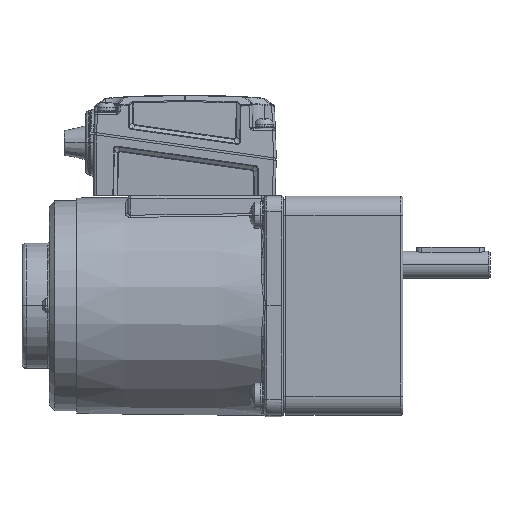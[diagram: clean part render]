
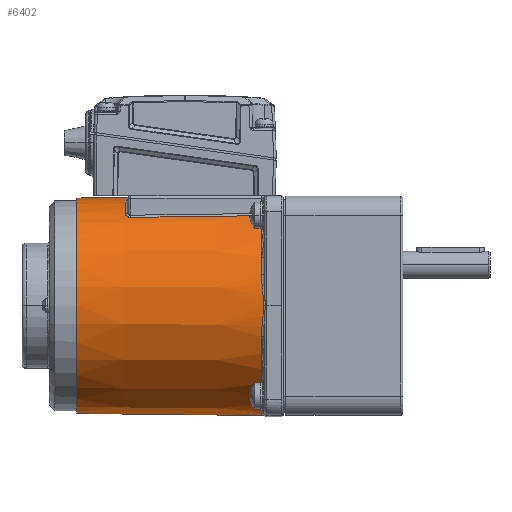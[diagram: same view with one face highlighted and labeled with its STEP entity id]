
A CAD part, top view. The second image highlights one B-rep face of the part: STEP entity #6402.
In plain terms, the highlighted conical face has half-angle 0.6 degrees and reference radius 38.566 mm.
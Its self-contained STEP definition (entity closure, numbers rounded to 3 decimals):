
#6243=CARTESIAN_POINT('',(0.,39.6,-75.8));
#6244=VERTEX_POINT('',#6243);
#6245=CARTESIAN_POINT('',(0.,-39.6,-75.8));
#6246=VERTEX_POINT('',#6245);
#6254=CARTESIAN_POINT('',(0.,0.,-75.8));
#6255=DIRECTION('',(0.,-1.,0.));
#6256=DIRECTION('',(0.,0.,-1.));
#6257=AXIS2_PLACEMENT_3D('',#6254,#6256,#6255);
#6258=CIRCLE('',#6257,39.6);
#6259=EDGE_CURVE('',#6246,#6244,#6258,.T.);
#6268=CARTESIAN_POINT('',(0.,0.,-174.569));
#6269=DIRECTION('',(0.,1.,0.));
#6270=DIRECTION('',(0.,0.,1.));
#6271=AXIS2_PLACEMENT_3D('',#6268,#6270,#6269);
#6272=CONICAL_SURFACE('',#6271,38.566,0.01);
#6273=CARTESIAN_POINT('',(0.,39.792,-57.425));
#6274=VERTEX_POINT('',#6273);
#6275=CARTESIAN_POINT('',(0.,39.792,-57.425));
#6276=DIRECTION('',(0.,-0.01,-1.));
#6277=VECTOR('',#6276,18.376);
#6278=LINE('',#6275,#6277);
#6279=EDGE_CURVE('',#6274,#6244,#6278,.T.);
#6280=ORIENTED_EDGE('E695',*,*,#6279,.T.);
#6281=ORIENTED_EDGE('E695',*,*,#6259,.F.);
#6282=CARTESIAN_POINT('',(0.,-40.318,-7.271));
#6283=VERTEX_POINT('',#6282);
#6284=CARTESIAN_POINT('',(0.,-39.6,-75.8));
#6285=DIRECTION('',(0.,-0.01,1.));
#6286=VECTOR('',#6285,68.533);
#6287=LINE('',#6284,#6286);
#6288=EDGE_CURVE('',#6246,#6283,#6287,.T.);
#6289=ORIENTED_EDGE('E696',*,*,#6288,.T.);
#6290=CARTESIAN_POINT('',(-11.384,-38.669,-7.99));
#6291=VERTEX_POINT('',#6290);
#6292=CARTESIAN_POINT('',(0.,-40.318,-7.271));
#6293=CARTESIAN_POINT('',(-1.015,-40.318,-7.27));
#6294=CARTESIAN_POINT('',(-3.066,-40.241,-7.321));
#6295=CARTESIAN_POINT('',(-6.239,-39.873,-7.649));
#6296=CARTESIAN_POINT('',(-9.327,-39.249,-7.948));
#6297=CARTESIAN_POINT('',(-10.767,-38.851,-7.994));
#6298=CARTESIAN_POINT('',(-11.384,-38.669,-7.99));
#6299=B_SPLINE_CURVE_WITH_KNOTS('',3,(#6292,#6293,#6294,#6295,#6296,#6297,#6298),.UNSPECIFIED.,.F.,.U.,(4,1,1,1,4),(0.,0.25,0.5,0.75,1.),.UNSPECIFIED.);
#6300=EDGE_CURVE('',#6283,#6291,#6299,.T.);
#6301=ORIENTED_EDGE('E697',*,*,#6300,.T.);
#6302=CARTESIAN_POINT('',(-38.669,-11.384,-7.99));
#6303=VERTEX_POINT('',#6302);
#6304=CARTESIAN_POINT('',(0.,0.,-7.99));
#6305=DIRECTION('',(-0.282,-0.959,0.));
#6306=DIRECTION('',(0.,0.,-1.));
#6307=AXIS2_PLACEMENT_3D('',#6304,#6306,#6305);
#6308=CIRCLE('',#6307,40.31);
#6309=EDGE_CURVE('',#6291,#6303,#6308,.T.);
#6310=ORIENTED_EDGE('E698',*,*,#6309,.T.);
#6311=CARTESIAN_POINT('',(-40.318,0.,-7.271));
#6312=VERTEX_POINT('',#6311);
#6313=CARTESIAN_POINT('',(-38.669,-11.384,-7.99));
#6314=CARTESIAN_POINT('',(-38.676,-11.363,-7.99));
#6315=CARTESIAN_POINT('',(-38.835,-10.821,-7.989));
#6316=CARTESIAN_POINT('',(-39.139,-9.7,-7.951));
#6317=CARTESIAN_POINT('',(-39.533,-7.959,-7.819));
#6318=CARTESIAN_POINT('',(-39.875,-6.046,-7.629));
#6319=CARTESIAN_POINT('',(-40.13,-4.049,-7.428));
#6320=CARTESIAN_POINT('',(-40.277,-2.109,-7.288));
#6321=CARTESIAN_POINT('',(-40.315,-0.769,-7.261));
#6322=CARTESIAN_POINT('',(-40.318,-0.094,-7.269));
#6323=CARTESIAN_POINT('',(-40.318,0.,-7.271));
#6324=B_SPLINE_CURVE_WITH_KNOTS('',3,(#6313,#6314,#6315,#6316,#6317,#6318,#6319,#6320,#6321,#6322,#6323),.UNSPECIFIED.,.F.,.U.,(4,1,1,1,1,1,1,1,4),(0.,0.006,0.146,0.3,0.469,0.651,0.824,0.975,1.),.UNSPECIFIED.);
#6325=EDGE_CURVE('',#6303,#6312,#6324,.T.);
#6326=ORIENTED_EDGE('E699',*,*,#6325,.T.);
#6327=CARTESIAN_POINT('',(-38.669,11.383,-7.99));
#6328=VERTEX_POINT('',#6327);
#6329=CARTESIAN_POINT('',(-40.318,0.,-7.271));
#6330=CARTESIAN_POINT('',(-40.318,0.152,-7.268));
#6331=CARTESIAN_POINT('',(-40.313,0.965,-7.26));
#6332=CARTESIAN_POINT('',(-40.259,2.464,-7.305));
#6333=CARTESIAN_POINT('',(-40.087,4.439,-7.465));
#6334=CARTESIAN_POINT('',(-39.828,6.326,-7.658));
#6335=CARTESIAN_POINT('',(-39.511,8.052,-7.826));
#6336=CARTESIAN_POINT('',(-39.147,9.659,-7.947));
#6337=CARTESIAN_POINT('',(-38.854,10.75,-7.987));
#6338=CARTESIAN_POINT('',(-38.688,11.321,-7.989));
#6339=CARTESIAN_POINT('',(-38.669,11.383,-7.99));
#6340=B_SPLINE_CURVE_WITH_KNOTS('',3,(#6329,#6330,#6331,#6332,#6333,#6334,#6335,#6336,#6337,#6338,#6339),.UNSPECIFIED.,.F.,.U.,(4,1,1,1,1,1,1,1,4),(0.,0.039,0.212,0.39,0.556,0.708,0.847,0.983,1.),.UNSPECIFIED.);
#6341=EDGE_CURVE('',#6312,#6328,#6340,.T.);
#6342=ORIENTED_EDGE('E700',*,*,#6341,.T.);
#6343=CARTESIAN_POINT('',(-23.042,33.075,-7.99));
#6344=VERTEX_POINT('',#6343);
#6345=CARTESIAN_POINT('',(0.,0.,-7.99));
#6346=DIRECTION('',(-0.959,0.282,0.));
#6347=DIRECTION('',(0.,0.,-1.));
#6348=AXIS2_PLACEMENT_3D('',#6345,#6347,#6346);
#6349=CIRCLE('',#6348,40.31);
#6350=EDGE_CURVE('',#6328,#6344,#6349,.T.);
#6351=ORIENTED_EDGE('E701',*,*,#6350,.T.);
#6352=CARTESIAN_POINT('',(-23.046,32.459,-55.99));
#6353=VERTEX_POINT('',#6352);
#6354=CARTESIAN_POINT('',(-23.042,33.075,-7.99));
#6355=CARTESIAN_POINT('',(-23.042,33.007,-13.32));
#6356=CARTESIAN_POINT('',(-23.042,32.869,-23.983));
#6357=CARTESIAN_POINT('',(-23.046,32.665,-39.983));
#6358=CARTESIAN_POINT('',(-23.045,32.527,-50.653));
#6359=CARTESIAN_POINT('',(-23.046,32.459,-55.99));
#6360=B_SPLINE_CURVE_WITH_KNOTS('',3,(#6354,#6355,#6356,#6357,#6358,#6359),.UNSPECIFIED.,.F.,.U.,(4,1,1,4),(0.,0.333,0.667,1.),.UNSPECIFIED.);
#6361=EDGE_CURVE('',#6344,#6353,#6360,.T.);
#6362=ORIENTED_EDGE('E702',*,*,#6361,.T.);
#6363=CARTESIAN_POINT('',(-21.072,33.748,-57.99));
#6364=VERTEX_POINT('',#6363);
#6365=CARTESIAN_POINT('',(-23.046,32.459,-55.99));
#6366=CARTESIAN_POINT('',(-23.05,32.454,-56.151));
#6367=CARTESIAN_POINT('',(-23.013,32.475,-56.468));
#6368=CARTESIAN_POINT('',(-22.792,32.624,-57.018));
#6369=CARTESIAN_POINT('',(-22.515,32.812,-57.387));
#6370=CARTESIAN_POINT('',(-22.04,33.128,-57.762));
#6371=CARTESIAN_POINT('',(-21.631,33.395,-57.928));
#6372=CARTESIAN_POINT('',(-21.266,33.627,-57.983));
#6373=CARTESIAN_POINT('',(-21.072,33.748,-57.99));
#6374=B_SPLINE_CURVE_WITH_KNOTS('',3,(#6365,#6366,#6367,#6368,#6369,#6370,#6371,#6372,#6373),.UNSPECIFIED.,.F.,.U.,(4,1,1,1,1,1,4),(0.,0.167,0.333,0.5,0.667,0.833,1.),.UNSPECIFIED.);
#6375=EDGE_CURVE('',#6353,#6364,#6374,.T.);
#6376=ORIENTED_EDGE('E703',*,*,#6375,.T.);
#6377=CARTESIAN_POINT('',(-10.285,38.434,-57.99));
#6378=VERTEX_POINT('',#6377);
#6379=CARTESIAN_POINT('',(0.,0.,-57.99));
#6380=DIRECTION('',(-0.53,0.848,0.));
#6381=DIRECTION('',(0.,0.,-1.));
#6382=AXIS2_PLACEMENT_3D('',#6379,#6381,#6380);
#6383=CIRCLE('',#6382,39.787);
#6384=EDGE_CURVE('',#6364,#6378,#6383,.T.);
#6385=ORIENTED_EDGE('E704',*,*,#6384,.T.);
#6386=CARTESIAN_POINT('',(-10.285,38.434,-57.99));
#6387=CARTESIAN_POINT('',(-10.193,38.459,-57.99));
#6388=CARTESIAN_POINT('',(-9.552,38.628,-57.986));
#6389=CARTESIAN_POINT('',(-8.411,38.899,-57.943));
#6390=CARTESIAN_POINT('',(-6.902,39.194,-57.839));
#6391=CARTESIAN_POINT('',(-5.463,39.421,-57.72));
#6392=CARTESIAN_POINT('',(-4.028,39.595,-57.601));
#6393=CARTESIAN_POINT('',(-2.561,39.718,-57.497));
#6394=CARTESIAN_POINT('',(-1.213,39.781,-57.437));
#6395=CARTESIAN_POINT('',(-0.362,39.792,-57.425));
#6396=CARTESIAN_POINT('',(0.,39.792,-57.425));
#6397=B_SPLINE_CURVE_WITH_KNOTS('',3,(#6386,#6387,#6388,#6389,#6390,#6391,#6392,#6393,#6394,#6395,#6396),.UNSPECIFIED.,.F.,.U.,(4,1,1,1,1,1,1,1,4),(0.,0.027,0.19,0.336,0.47,0.61,0.754,0.896,1.),.UNSPECIFIED.);
#6398=EDGE_CURVE('',#6378,#6274,#6397,.T.);
#6399=ORIENTED_EDGE('E705',*,*,#6398,.T.);
#6400=EDGE_LOOP('',(#6280,#6281,#6289,#6301,#6310,#6326,#6342,#6351,#6362,#6376,#6385,#6399));
#6401=FACE_OUTER_BOUND('',#6400,.T.);
#6402=ADVANCED_FACE('F35',(#6401),#6272,.T.);
